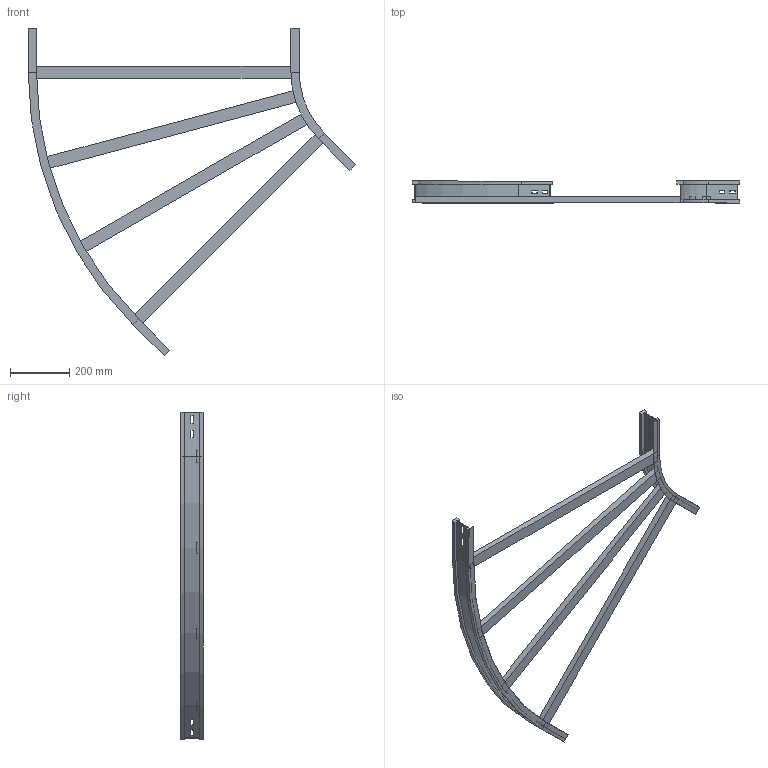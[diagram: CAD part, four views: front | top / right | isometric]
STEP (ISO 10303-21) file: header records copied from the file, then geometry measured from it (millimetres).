
FILE_DESCRIPTION (( 'STEP AP214' ), '1' );
FILE_NAME ('11S3C900.step', '2025-02-21T16:05:54', ( '' ), ( '' ), 'SwSTEP 2.0', 'SolidWorks 2023', '' );
FILE_SCHEMA (( 'AUTOMOTIVE_DESIGN' ));
Length unit declared in the file: millimetre
Products named in the file (4): LONGH.INTERNO 45°_H75_R300; TRAVERSINO_900; 11S3C900; LONGH.ESTERNO 45°_H75_R300+900
Assembly tree (6 placements, depth 2):
  11S3C900
    LONGH.INTERNO 45°_H75_R300
    LONGH.ESTERNO 45°_H75_R300+900
    TRAVERSINO_900  x4
Bounding box: 1109.3 x 75 x 1110.96 mm (x, y, z)
Volume: 3779737.4 mm3; surface area: 879005 mm2
Topology: 6 solids, 6 shells, 132 faces, 312 edges, 192 vertices
Faces by surface type: plane 120, cylinder 12
Entity records: 3397 total; most frequent: CARTESIAN_POINT 567, ORIENTED_EDGE 552, DIRECTION 546, EDGE_CURVE 276, VECTOR 252, LINE 252, VERTEX_POINT 168, AXIS2_PLACEMENT_3D 147
